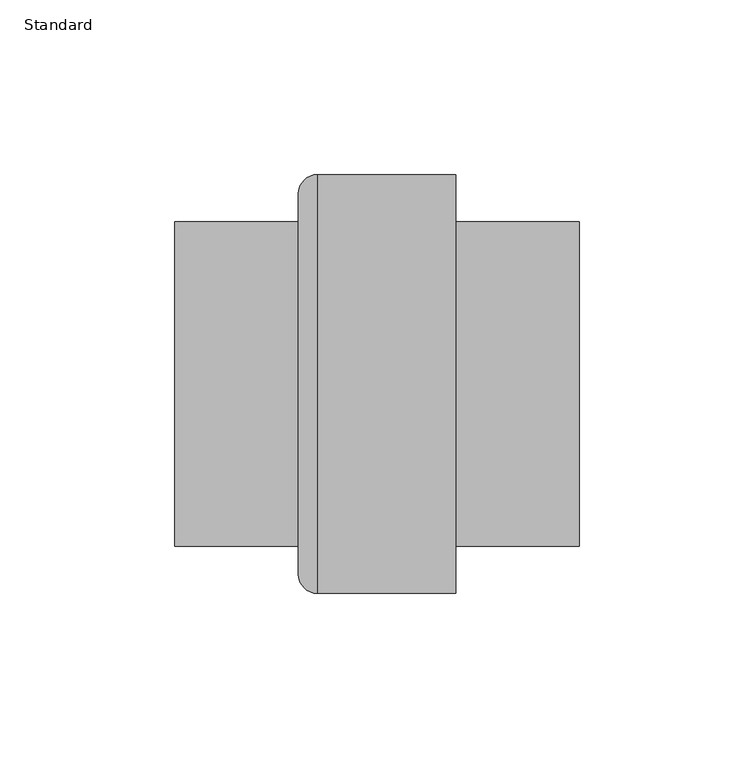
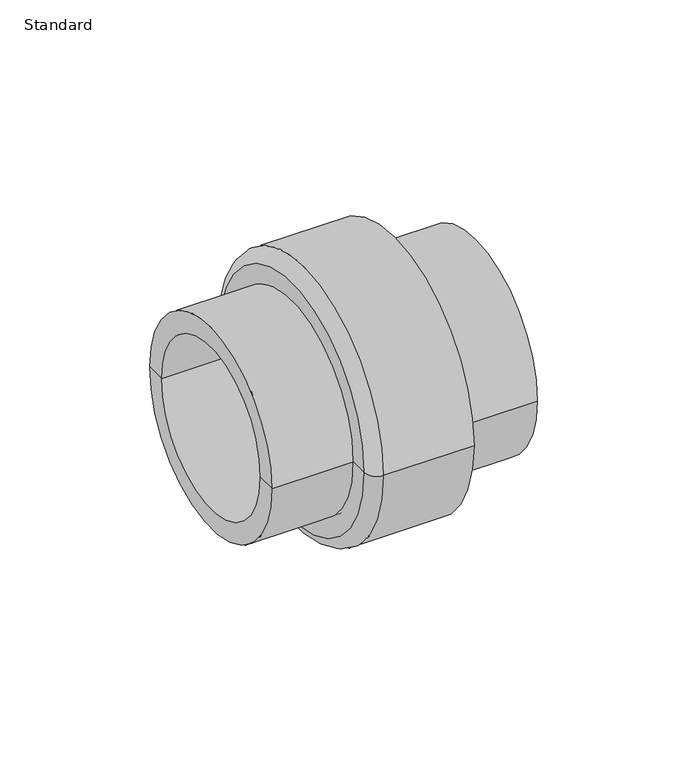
"""IFC4 building model written with IfcOpenShell, lengths in millimetres: pipe fitting geometry, Durapipe_PipeFitting_PVC_SocketUnions : Standard."""

from ifc_helpers import new_model, si_unit, point, frame, origin, place, context, project, spatial, polyline, circle_curve, ellipse_curve, trimmed, source, transform, mapped, element, save
from ifc_brep_helpers import plane_surface, cylinder_surface, revolved_surface, advanced_brep


def standard_dfd1eef8(model_context):
    return source(origin(), model_context, "Body", "AdvancedBrep", [
        advanced_brep(
        [(-56.0, -46.5, 0.0), (-56.0, 46.5, 0.0), (-56.0, 54.5, 0.0), (-56.0, -54.5, 0.0), (-11.0, -60.0, 0.0), (-11.0, 60.0, 0.0), (-11.0, 46.5, 0.0), (-11.0, -46.5, 0.0), (-50.5, -60.0, 0.0), (-50.5, 60.0, 0.0)],
        [
            (0, 1, circle_curve(frame((-56.0, 0.0, 0.0), z_axis=(1.0, 0.0, 0.0), x_axis=(0.0, 1.0, 0.0)), 46.5)),
            (1, 2),
            (2, 3, circle_curve(frame((-56.0, 0.0, 0.0), z_axis=(-1.0, 0.0, 0.0), x_axis=(0.0, 1.0, 0.0)), 54.5)),
            (3, 0),
            (1, 0, circle_curve(frame((-56.0, 0.0, 0.0), z_axis=(1.0, 0.0, 0.0), x_axis=(0.0, 1.0, 0.0)), 46.5)),
            (3, 2, circle_curve(frame((-56.0, 0.0, 0.0), z_axis=(-1.0, 0.0, 0.0), x_axis=(0.0, 1.0, 0.0)), 54.5)),
            (4, 5, circle_curve(frame((-11.0, 0.0, 0.0), z_axis=(1.0, 0.0, 0.0), x_axis=(0.0, 1.0, 0.0)), 60.0)),
            (5, 6),
            (6, 7, circle_curve(frame((-11.0, 0.0, 0.0), z_axis=(-1.0, 0.0, 0.0), x_axis=(0.0, 1.0, 0.0)), 46.5)),
            (7, 4),
            (5, 4, circle_curve(frame((-11.0, 0.0, 0.0), z_axis=(1.0, 0.0, 0.0), x_axis=(0.0, 1.0, 0.0)), 60.0)),
            (7, 6, circle_curve(frame((-11.0, 0.0, 0.0), z_axis=(-1.0, 0.0, 0.0), x_axis=(0.0, 1.0, 0.0)), 46.5)),
            (8, 9, circle_curve(frame((-50.5, 0.0, 0.0), z_axis=(1.0, 0.0, 0.0), x_axis=(0.0, 1.0, 0.0)), 60.0)),
            (9, 5),
            (4, 8),
            (9, 8, circle_curve(frame((-50.5, 0.0, 0.0), z_axis=(1.0, 0.0, 0.0), x_axis=(0.0, 1.0, 0.0)), 60.0)),
            (2, 9, circle_curve(frame((-50.5, 54.5, 0.0), z_axis=(0.0, 0.0, -1.0), x_axis=(1.0, 0.0, 0.0)), 5.5)),
            (8, 3, circle_curve(frame((-50.5, -54.5, 0.0), z_axis=(0.0, 0.0, -1.0), x_axis=(1.0, 0.0, 0.0)), 5.5)),
            (6, 1),
            (0, 7),
        ],
        [
            plane_surface(frame((-56.0, 0.0, 0.0), z_axis=(-1.0, 0.0, 0.0), x_axis=(0.0, 1.0, 0.0))),
            plane_surface(frame((-11.0, 0.0, 0.0), z_axis=(1.0, 0.0, 0.0), x_axis=(0.0, 1.0, 0.0))),
            cylinder_surface(frame((2000.0, 0.0, 0.0), z_axis=(-1.0, 0.0, 0.0), x_axis=(0.0, 1.0, 0.0)), 60.0),
            revolved_surface(trimmed(ellipse_curve(frame((-50.5, 54.5, 0.0), z_axis=(0.0, 0.0, 1.0), x_axis=(1.0, 0.0, 0.0)), 5.5, 5.5), [point((-50.5, 60.0, 0.0))], [point((-56.0, 54.5, 0.0))], True, "CARTESIAN"), (2000.0, 0.0, 0.0), (-1.0, 0.0, 0.0)),
            revolved_surface(polyline([(-56.0, 46.5, 0.0), (-11.0, 46.5, 0.0)]), (2000.0, 0.0, 0.0), (-1.0, 0.0, 0.0)),
        ],
        [
            (0, [[1, 2, 3, 4]]),
            (0, [[5, -4, 6, -2]]),
            (1, [[7, 8, 9, 10]]),
            (1, [[11, -10, 12, -8]]),
            (2, [[13, 14, -7, 15]]),
            (2, [[16, -15, -11, -14]]),
            (3, [[-3, 17, -13, 18]]),
            (3, [[-6, -18, -16, -17]]),
            (4, [[-9, 19, -1, 20]]),
            (4, [[-12, -20, -5, -19]]),
        ],
    ),
        advanced_brep(
        [(-47.5, -37.5, 0.0), (-47.5, 37.5, 0.0), (-91.5, 37.5, 0.0), (-91.5, -37.5, 0.0), (-47.5, 0.0, 0.0), (-19.5, -37.5, 0.0), (-19.5, 37.5, 0.0), (-19.5, 0.0, 0.0), (-91.5, -46.5, 0.0), (-91.5, 46.5, 0.0), (24.5, 46.5, 0.0), (24.5, -46.5, 0.0), (24.5, -37.5, 0.0), (24.5, 37.5, 0.0)],
        [
            (0, 1, circle_curve(frame((-47.5, 0.0, 0.0), z_axis=(1.0, 0.0, 0.0), x_axis=(0.0, 1.0, 0.0)), 37.5)),
            (1, 2),
            (2, 3, circle_curve(frame((-91.5, 0.0, 0.0), z_axis=(-1.0, 0.0, 0.0), x_axis=(0.0, 1.0, 0.0)), 37.5)),
            (3, 0),
            (1, 0, circle_curve(frame((-47.5, 0.0, 0.0), z_axis=(1.0, 0.0, 0.0), x_axis=(0.0, 1.0, 0.0)), 37.5)),
            (3, 2, circle_curve(frame((-91.5, 0.0, 0.0), z_axis=(-1.0, 0.0, 0.0), x_axis=(0.0, 1.0, 0.0)), 37.5)),
            (4, 1),
            (0, 4),
            (5, 6, circle_curve(frame((-19.5, 0.0, 0.0), z_axis=(1.0, 0.0, 0.0), x_axis=(0.0, 1.0, 0.0)), 37.5)),
            (6, 7),
            (7, 5),
            (6, 5, circle_curve(frame((-19.5, 0.0, 0.0), z_axis=(1.0, 0.0, 0.0), x_axis=(0.0, 1.0, 0.0)), 37.5)),
            (8, 9, circle_curve(frame((-91.5, 0.0, 0.0), z_axis=(1.0, 0.0, 0.0), x_axis=(0.0, 1.0, 0.0)), 46.5)),
            (9, 10),
            (10, 11, circle_curve(frame((24.5, 0.0, 0.0), z_axis=(-1.0, 0.0, 0.0), x_axis=(0.0, 1.0, 0.0)), 46.5)),
            (11, 8),
            (9, 8, circle_curve(frame((-91.5, 0.0, 0.0), z_axis=(1.0, 0.0, 0.0), x_axis=(0.0, 1.0, 0.0)), 46.5)),
            (11, 10, circle_curve(frame((24.5, 0.0, 0.0), z_axis=(-1.0, 0.0, 0.0), x_axis=(0.0, 1.0, 0.0)), 46.5)),
            (2, 9),
            (8, 3),
            (12, 13, circle_curve(frame((24.5, 0.0, 0.0), z_axis=(1.0, 0.0, 0.0), x_axis=(0.0, 1.0, 0.0)), 37.5)),
            (13, 6),
            (5, 12),
            (13, 12, circle_curve(frame((24.5, 0.0, 0.0), z_axis=(1.0, 0.0, 0.0), x_axis=(0.0, 1.0, 0.0)), 37.5)),
            (10, 13),
            (12, 11),
        ],
        [
            revolved_surface(polyline([(-91.5, 37.5, 0.0), (-47.5, 37.5, 0.0)]), (2000.0, 0.0, 0.0), (-1.0, 0.0, 0.0)),
            plane_surface(frame((-47.5, 0.0, 0.0), z_axis=(-1.0, 0.0, 0.0), x_axis=(0.0, 1.0, 0.0))),
            plane_surface(frame((-19.5, 0.0, 0.0), z_axis=(1.0, 0.0, 0.0), x_axis=(0.0, 1.0, 0.0))),
            cylinder_surface(frame((2000.0, 0.0, 0.0), z_axis=(-1.0, 0.0, 0.0), x_axis=(0.0, 1.0, 0.0)), 46.5),
            plane_surface(frame((-91.5, 0.0, 0.0), z_axis=(-1.0, 0.0, 0.0), x_axis=(0.0, 1.0, 0.0))),
            revolved_surface(polyline([(-19.5, 37.5, 0.0), (24.5, 37.5, 0.0)]), (2000.0, 0.0, 0.0), (-1.0, 0.0, 0.0)),
            plane_surface(frame((24.5, 0.0, 0.0), z_axis=(1.0, 0.0, 0.0), x_axis=(0.0, 1.0, 0.0))),
        ],
        [
            (0, [[1, 2, 3, 4]]),
            (0, [[5, -4, 6, -2]]),
            (1, [[7, -1, 8]]),
            (1, [[-8, -5, -7]]),
            (2, [[9, 10, 11]]),
            (2, [[12, -11, -10]]),
            (3, [[13, 14, 15, 16]]),
            (3, [[17, -16, 18, -14]]),
            (4, [[-3, 19, -13, 20]]),
            (4, [[-6, -20, -17, -19]]),
            (5, [[21, 22, -9, 23]]),
            (5, [[24, -23, -12, -22]]),
            (6, [[-15, 25, -21, 26]]),
            (6, [[-18, -26, -24, -25]]),
        ],
    ),
    ])


if __name__ == "__main__":
    model = new_model("IFC4")
    model_context = context("Model", 3, world=origin())
    ifc_project = project(units=[si_unit("LENGTHUNIT", "METRE", prefix="MILLI")], contexts=[model_context])
    site = spatial("IfcSite", under=ifc_project)
    building = spatial("IfcBuilding", under=site)
    placement = place(None, origin())
    standard_shape = standard_dfd1eef8(model_context)
    element("IfcPipeFitting", 1, ObjectType="Durapipe_PipeFitting_PVC_SocketUnions : Standard", at=placement, inside=building, context=model_context, shape_type="MappedRepresentation", body=[
        mapped(standard_shape, transform((0.0, 0.0, 0.0), x_axis=(1.0, 0.0, 0.0), y_axis=(0.0, 1.0, 0.0), z_axis=(0.0, 0.0, 1.0))),
    ])
    save(model, "model.ifc")
